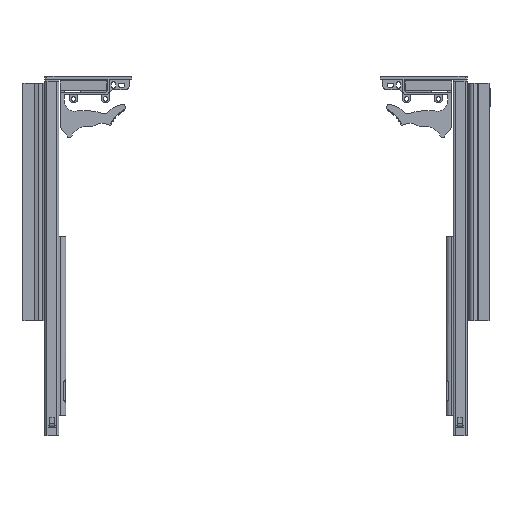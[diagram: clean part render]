
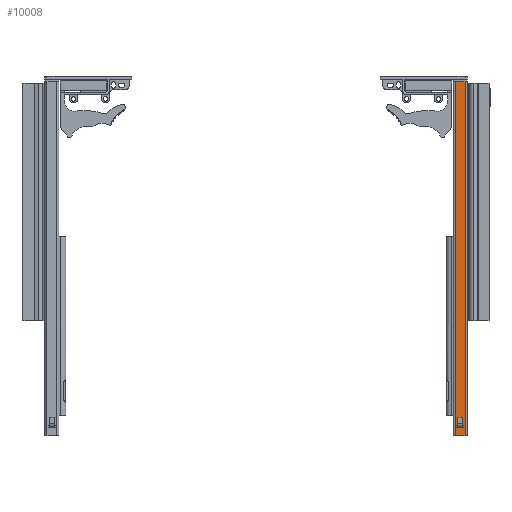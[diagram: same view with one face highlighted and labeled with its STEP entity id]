
A CAD part, front view. The second image highlights one B-rep face of the part: STEP entity #10008.
In plain terms, the highlighted planar face has unit normal (0, -1, 0).
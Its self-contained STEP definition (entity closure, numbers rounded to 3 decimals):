
#215=FACE_BOUND('',#1359,.T.);
#701=FACE_OUTER_BOUND('',#1358,.T.);
#1358=EDGE_LOOP('',(#7687,#7688,#7689,#7690));
#1359=EDGE_LOOP('',(#7691,#7692,#7693,#7694));
#2093=LINE('',#15508,#3073);
#2097=LINE('',#15515,#3077);
#2100=LINE('',#15547,#3080);
#2102=LINE('',#15553,#3082);
#2133=LINE('',#15640,#3113);
#2134=LINE('',#15643,#3114);
#2135=LINE('',#15645,#3115);
#2136=LINE('',#15646,#3116);
#3073=VECTOR('',#12531,10.);
#3077=VECTOR('',#12537,10.);
#3080=VECTOR('',#12542,10.);
#3082=VECTOR('',#12552,10.);
#3113=VECTOR('',#12635,10.);
#3114=VECTOR('',#12638,10.);
#3115=VECTOR('',#12639,10.);
#3116=VECTOR('',#12640,10.);
#4476=VERTEX_POINT('',#15505);
#4477=VERTEX_POINT('',#15507);
#4479=VERTEX_POINT('',#15513);
#4480=VERTEX_POINT('',#15545);
#4509=VERTEX_POINT('',#15636);
#4510=VERTEX_POINT('',#15638);
#4511=VERTEX_POINT('',#15642);
#4512=VERTEX_POINT('',#15644);
#5602=EDGE_CURVE('',#4477,#4476,#2093,.T.);
#5606=EDGE_CURVE('',#4476,#4479,#2097,.T.);
#5610=EDGE_CURVE('',#4479,#4480,#2100,.T.);
#5612=EDGE_CURVE('',#4480,#4477,#2102,.T.);
#5655=EDGE_CURVE('',#4509,#4510,#2133,.T.);
#5656=EDGE_CURVE('',#4509,#4511,#2134,.T.);
#5657=EDGE_CURVE('',#4512,#4510,#2135,.T.);
#5658=EDGE_CURVE('',#4511,#4512,#2136,.T.);
#7687=ORIENTED_EDGE('',*,*,#5656,.F.);
#7688=ORIENTED_EDGE('',*,*,#5655,.T.);
#7689=ORIENTED_EDGE('',*,*,#5657,.F.);
#7690=ORIENTED_EDGE('',*,*,#5658,.F.);
#7691=ORIENTED_EDGE('',*,*,#5602,.T.);
#7692=ORIENTED_EDGE('',*,*,#5606,.T.);
#7693=ORIENTED_EDGE('',*,*,#5610,.T.);
#7694=ORIENTED_EDGE('',*,*,#5612,.T.);
#9326=PLANE('',#10789);
#10008=ADVANCED_FACE('',(#701,#215),#9326,.T.);
#10789=AXIS2_PLACEMENT_3D('',#15641,#12636,#12637);
#12531=DIRECTION('',(0.,0.,-1.));
#12537=DIRECTION('',(-1.,0.,0.));
#12542=DIRECTION('',(0.,0.,1.));
#12552=DIRECTION('',(1.,0.,0.));
#12635=DIRECTION('',(0.,0.,-1.));
#12636=DIRECTION('center_axis',(0.,-1.,0.));
#12637=DIRECTION('ref_axis',(-1.,0.,0.));
#12638=DIRECTION('',(1.,0.,0.));
#12639=DIRECTION('',(-1.,0.,0.));
#12640=DIRECTION('',(0.,0.,-1.));
#15505=CARTESIAN_POINT('',(30.652,8.,-238.597));
#15507=CARTESIAN_POINT('',(30.652,8.,-237.097));
#15508=CARTESIAN_POINT('',(30.652,8.,-64.597));
#15513=CARTESIAN_POINT('',(24.034,8.,-238.597));
#15515=CARTESIAN_POINT('',(29.843,8.,-238.597));
#15545=CARTESIAN_POINT('',(24.034,8.,-237.097));
#15547=CARTESIAN_POINT('',(24.034,8.,-64.597));
#15553=CARTESIAN_POINT('',(29.843,8.,-237.097));
#15636=CARTESIAN_POINT('',(22.343,8.,107.903));
#15638=CARTESIAN_POINT('',(22.343,8.,-247.097));
#15640=CARTESIAN_POINT('',(22.343,8.,107.903));
#15641=CARTESIAN_POINT('Origin',(32.343,8.,107.903));
#15642=CARTESIAN_POINT('',(32.343,8.,107.903));
#15643=CARTESIAN_POINT('',(22.343,8.,107.903));
#15644=CARTESIAN_POINT('',(32.343,8.,-247.097));
#15645=CARTESIAN_POINT('',(22.343,8.,-247.097));
#15646=CARTESIAN_POINT('',(32.343,8.,107.903));
